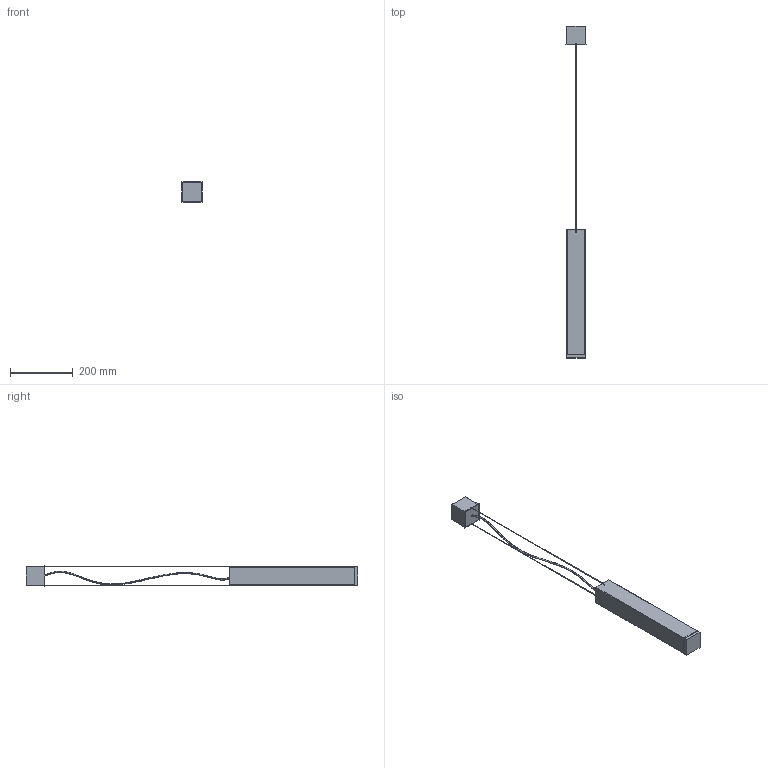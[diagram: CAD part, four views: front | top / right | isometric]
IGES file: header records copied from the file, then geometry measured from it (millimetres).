
Start section: SolidWorks IGES file using analytic representation for surfaces
Global section: file name: C:\Users\Asia\Desktop\Brice\Bryce M 5674,5681,5677.IGS; native system: SolidWorks 2016; preprocessor: SolidWorks 2016; author: Asia; date: 160727.151249; units: millimetre
Bounding box: 64 x 1056.33 x 64 mm (x, y, z)
Surface area: 255739.9 mm2 (no closed solid volume)
Topology: 0 solids, 0 shells, 105 faces, 1385 edges, 1385 vertices
Faces by surface type: bspline 68, revolution 37
